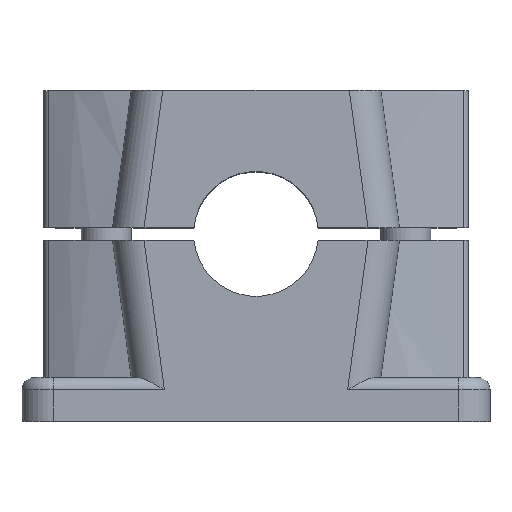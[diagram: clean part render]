
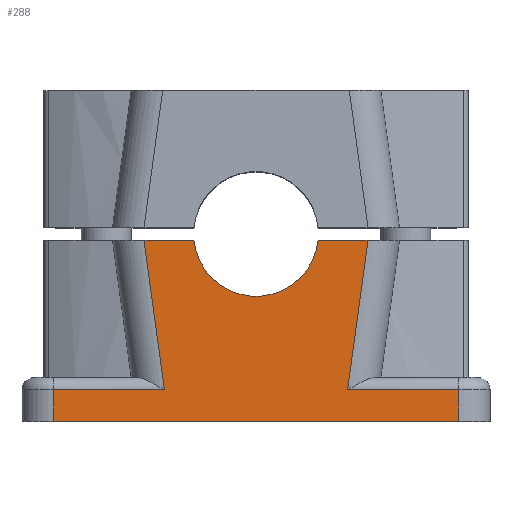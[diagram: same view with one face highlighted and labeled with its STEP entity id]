
A CAD part, top view. The second image highlights one B-rep face of the part: STEP entity #288.
In plain terms, the highlighted planar face has unit normal (0, 0, 1).
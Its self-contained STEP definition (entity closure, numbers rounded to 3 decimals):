
#288 = ADVANCED_FACE( '', ( #772 ), #773, .T. );
#772 = FACE_OUTER_BOUND( '', #1264, .T. );
#773 = PLANE( '', #1265 );
#1264 = EDGE_LOOP( '', ( #3000, #3001, #3002, #3003, #3004, #3005, #3006, #3007, #3008, #3009 ) );
#1265 = AXIS2_PLACEMENT_3D( '', #3010, #3011, #3012 );
#3000 = ORIENTED_EDGE( '', *, *, #3452, .T. );
#3001 = ORIENTED_EDGE( '', *, *, #3402, .F. );
#3002 = ORIENTED_EDGE( '', *, *, #3606, .T. );
#3003 = ORIENTED_EDGE( '', *, *, #3576, .F. );
#3004 = ORIENTED_EDGE( '', *, *, #3598, .T. );
#3005 = ORIENTED_EDGE( '', *, *, #3311, .T. );
#3006 = ORIENTED_EDGE( '', *, *, #3362, .F. );
#3007 = ORIENTED_EDGE( '', *, *, #3295, .F. );
#3008 = ORIENTED_EDGE( '', *, *, #3064, .T. );
#3009 = ORIENTED_EDGE( '', *, *, #3607, .F. );
#3010 = CARTESIAN_POINT( '', ( 0., 0., 25. ) );
#3011 = DIRECTION( '', ( 0., 0., 1. ) );
#3012 = DIRECTION( '', ( 1., 0., 0. ) );
#3064 = EDGE_CURVE( '', #3633, #3631, #3634, .T. );
#3295 = EDGE_CURVE( '', #3633, #4041, #4042, .T. );
#3311 = EDGE_CURVE( '', #4062, #4065, #4067, .T. );
#3362 = EDGE_CURVE( '', #4041, #4065, #4157, .T. );
#3402 = EDGE_CURVE( '', #4223, #4219, #4225, .T. );
#3452 = EDGE_CURVE( '', #4312, #4219, #4313, .T. );
#3576 = EDGE_CURVE( '', #4500, #4498, #4502, .T. );
#3598 = EDGE_CURVE( '', #4500, #4062, #4533, .T. );
#3606 = EDGE_CURVE( '', #4223, #4498, #4542, .T. );
#3607 = EDGE_CURVE( '', #4312, #3631, #4543, .F. );
#3631 = VERTEX_POINT( '', #4602 );
#3633 = VERTEX_POINT( '', #4619 );
#3634 = LINE( '', #4620, #4621 );
#4041 = VERTEX_POINT( '', #5189 );
#4042 = LINE( '', #5190, #5191 );
#4062 = VERTEX_POINT( '', #5213 );
#4065 = VERTEX_POINT( '', #5216 );
#4067 = LINE( '', #5218, #5219 );
#4157 = LINE( '', #5335, #5336 );
#4219 = VERTEX_POINT( '', #5418 );
#4223 = VERTEX_POINT( '', #5423 );
#4225 = CIRCLE( '', #5426, 10. );
#4312 = VERTEX_POINT( '', #5550 );
#4313 = LINE( '', #5551, #5552 );
#4498 = VERTEX_POINT( '', #5811 );
#4500 = VERTEX_POINT( '', #5813 );
#4502 = LINE( '', #5830, #5831 );
#4533 = LINE( '', #5876, #5877 );
#4542 = LINE( '', #5890, #5891 );
#4543 = LINE( '', #5892, #5893 );
#4602 = CARTESIAN_POINT( '', ( 14.681, -25., 25. ) );
#4619 = CARTESIAN_POINT( '', ( 32.5, -25., 25. ) );
#4620 = CARTESIAN_POINT( '', ( 32.5, -25., 25. ) );
#4621 = VECTOR( '', #5911, 1000. );
#5189 = CARTESIAN_POINT( '', ( 32.5, -30., 25. ) );
#5190 = CARTESIAN_POINT( '', ( 32.5, -25., 25. ) );
#5191 = VECTOR( '', #6280, 1000. );
#5213 = CARTESIAN_POINT( '', ( -32.5, -25., 25. ) );
#5216 = CARTESIAN_POINT( '', ( -32.5, -30., 25. ) );
#5218 = CARTESIAN_POINT( '', ( -32.5, -25., 25. ) );
#5219 = VECTOR( '', #6322, 1000. );
#5335 = CARTESIAN_POINT( '', ( 32.5, -30., 25. ) );
#5336 = VECTOR( '', #6421, 1000. );
#5418 = CARTESIAN_POINT( '', ( 9.95, -1., 25. ) );
#5423 = CARTESIAN_POINT( '', ( -9.95, -1., 25. ) );
#5426 = AXIS2_PLACEMENT_3D( '', #6495, #6496, #6497 );
#5550 = CARTESIAN_POINT( '', ( 17.954, -1., 25. ) );
#5551 = CARTESIAN_POINT( '', ( 0., -1., 25. ) );
#5552 = VECTOR( '', #6571, 1000. );
#5811 = CARTESIAN_POINT( '', ( -17.954, -1., 25. ) );
#5813 = CARTESIAN_POINT( '', ( -14.681, -25., 25. ) );
#5830 = CARTESIAN_POINT( '', ( -14.669, -25.086, 25. ) );
#5831 = VECTOR( '', #6790, 1000. );
#5876 = CARTESIAN_POINT( '', ( 32.5, -25., 25. ) );
#5877 = VECTOR( '', #6826, 1000. );
#5890 = CARTESIAN_POINT( '', ( 0., -1., 25. ) );
#5891 = VECTOR( '', #6840, 1000. );
#5892 = CARTESIAN_POINT( '', ( 14.669, -25.086, 25. ) );
#5893 = VECTOR( '', #6841, 1000. );
#5911 = DIRECTION( '', ( -1., 0., 0. ) );
#6280 = DIRECTION( '', ( 0., -1., 0. ) );
#6322 = DIRECTION( '', ( 0., -1., 0. ) );
#6421 = DIRECTION( '', ( -1., 0., 0. ) );
#6495 = CARTESIAN_POINT( '', ( 0., 0., 25. ) );
#6496 = DIRECTION( '', ( 0., 0., 1. ) );
#6497 = DIRECTION( '', ( 1., 0., 0. ) );
#6571 = DIRECTION( '', ( -1., 0., 0. ) );
#6790 = DIRECTION( '', ( -0.135, 0.991, 0. ) );
#6826 = DIRECTION( '', ( -1., 0., 0. ) );
#6840 = DIRECTION( '', ( -1., 0., 0. ) );
#6841 = DIRECTION( '', ( 0.135, 0.991, 0. ) );
